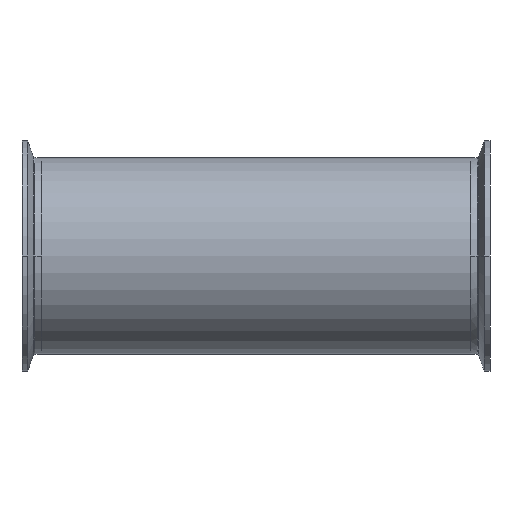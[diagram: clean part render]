
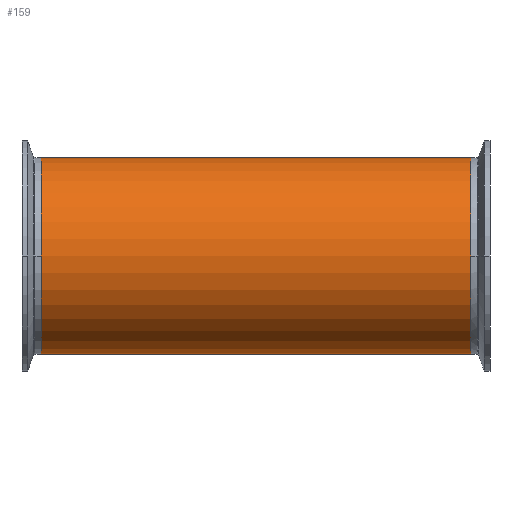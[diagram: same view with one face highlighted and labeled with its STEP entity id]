
A CAD part, front view. The second image highlights one B-rep face of the part: STEP entity #159.
In plain terms, the highlighted cylindrical face has radius 50.8 mm (diameter 101.6 mm), a partial arc.
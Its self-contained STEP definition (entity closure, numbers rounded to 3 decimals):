
#63 = CARTESIAN_POINT ( 'NONE',  ( 110.7, 0., -50.8 ) ) ;
#104 = DIRECTION ( 'NONE',  ( -1., 0., 0. ) ) ;
#145 = DIRECTION ( 'NONE',  ( 0., 0., 1. ) ) ;
#159 = ADVANCED_FACE ( 'NONE', ( #1000 ), #2631, .T. ) ;
#394 = VECTOR ( 'NONE', #104, 1000. ) ;
#421 = DIRECTION ( 'NONE',  ( -1., 0., 0. ) ) ;
#436 = AXIS2_PLACEMENT_3D ( 'NONE', #3172, #421, #1563 ) ;
#494 = DIRECTION ( 'NONE',  ( -1., 0., 0. ) ) ;
#627 = EDGE_CURVE ( 'NONE', #2455, #1380, #3832, .T. ) ;
#703 = AXIS2_PLACEMENT_3D ( 'NONE', #1339, #1487, #1470 ) ;
#855 = VERTEX_POINT ( 'NONE', #1462 ) ;
#885 = ORIENTED_EDGE ( 'NONE', *, *, #627, .F. ) ;
#939 = CIRCLE ( 'NONE', #4077, 50.8 ) ;
#1000 = FACE_OUTER_BOUND ( 'NONE', #2942, .T. ) ;
#1118 = CARTESIAN_POINT ( 'NONE',  ( 254.384, 0., 50.8 ) ) ;
#1256 = LINE ( 'NONE', #1118, #394 ) ;
#1259 = VECTOR ( 'NONE', #494, 1000. ) ;
#1270 = EDGE_CURVE ( 'NONE', #1348, #1380, #3016, .T. ) ;
#1339 = CARTESIAN_POINT ( 'NONE',  ( -110.7, 0., 0. ) ) ;
#1348 = VERTEX_POINT ( 'NONE', #3207 ) ;
#1380 = VERTEX_POINT ( 'NONE', #2313 ) ;
#1462 = CARTESIAN_POINT ( 'NONE',  ( 110.7, 0., 50.8 ) ) ;
#1470 = DIRECTION ( 'NONE',  ( 0., 0., 1. ) ) ;
#1487 = DIRECTION ( 'NONE',  ( 1., 0., 0. ) ) ;
#1563 = DIRECTION ( 'NONE',  ( 0., 0., 1. ) ) ;
#1640 = ORIENTED_EDGE ( 'NONE', *, *, #1270, .T. ) ;
#1700 = EDGE_CURVE ( 'NONE', #855, #1348, #1256, .T. ) ;
#1962 = ORIENTED_EDGE ( 'NONE', *, *, #1700, .T. ) ;
#2006 = ORIENTED_EDGE ( 'NONE', *, *, #3736, .T. ) ;
#2065 = DIRECTION ( 'NONE',  ( -1., 0., 0. ) ) ;
#2066 = CARTESIAN_POINT ( 'NONE',  ( 254.384, 0., -50.8 ) ) ;
#2313 = CARTESIAN_POINT ( 'NONE',  ( -110.7, 0., -50.8 ) ) ;
#2455 = VERTEX_POINT ( 'NONE', #63 ) ;
#2631 = CYLINDRICAL_SURFACE ( 'NONE', #436, 50.8 ) ;
#2942 = EDGE_LOOP ( 'NONE', ( #885, #2006, #1962, #1640 ) ) ;
#3016 = CIRCLE ( 'NONE', #703, 50.8 ) ;
#3172 = CARTESIAN_POINT ( 'NONE',  ( 254.384, 0., 0. ) ) ;
#3207 = CARTESIAN_POINT ( 'NONE',  ( -110.7, 0., 50.8 ) ) ;
#3736 = EDGE_CURVE ( 'NONE', #2455, #855, #939, .T. ) ;
#3832 = LINE ( 'NONE', #2066, #1259 ) ;
#3989 = CARTESIAN_POINT ( 'NONE',  ( 110.7, 0., 0. ) ) ;
#4077 = AXIS2_PLACEMENT_3D ( 'NONE', #3989, #2065, #145 ) ;
